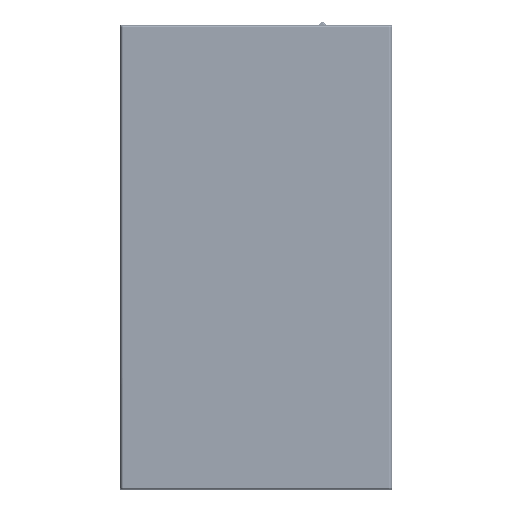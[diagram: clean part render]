
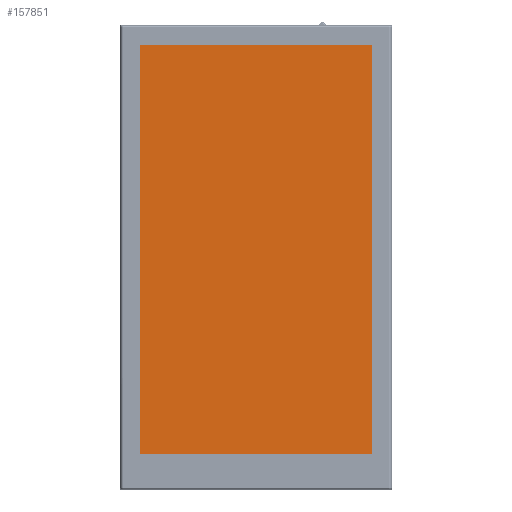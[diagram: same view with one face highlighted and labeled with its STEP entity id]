
A CAD part, top view. The second image highlights one B-rep face of the part: STEP entity #157851.
In plain terms, the highlighted planar face has unit normal (0, 0, 1).
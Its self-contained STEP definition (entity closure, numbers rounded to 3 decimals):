
#14257=LINE('',#258445,#30364);
#14258=LINE('',#258447,#30365);
#14259=LINE('',#258449,#30366);
#14260=LINE('',#258450,#30367);
#30364=VECTOR('',#204008,270.);
#30365=VECTOR('',#204009,478.3);
#30366=VECTOR('',#204010,270.);
#30367=VECTOR('',#204011,478.3);
#43848=FACE_OUTER_BOUND('',#53069,.T.);
#53069=EDGE_LOOP('',(#127799,#127800,#127801,#127802));
#70076=VERTEX_POINT('',#258443);
#70077=VERTEX_POINT('',#258444);
#70078=VERTEX_POINT('',#258446);
#70079=VERTEX_POINT('',#258448);
#89847=EDGE_CURVE('',#70076,#70077,#14257,.T.);
#89848=EDGE_CURVE('',#70078,#70076,#14258,.T.);
#89849=EDGE_CURVE('',#70079,#70078,#14259,.T.);
#89850=EDGE_CURVE('',#70077,#70079,#14260,.T.);
#127799=ORIENTED_EDGE('',*,*,#89847,.F.);
#127800=ORIENTED_EDGE('',*,*,#89848,.F.);
#127801=ORIENTED_EDGE('',*,*,#89849,.F.);
#127802=ORIENTED_EDGE('',*,*,#89850,.F.);
#142135=PLANE('',#169236);
#157851=ADVANCED_FACE('',(#43848),#142135,.T.);
#169236=AXIS2_PLACEMENT_3D('',#258442,#204006,#204007);
#204006=DIRECTION('center_axis',(0.,0.,
1.));
#204007=DIRECTION('ref_axis',(0.,-1.,0.));
#204008=DIRECTION('',(1.,0.,0.));
#204009=DIRECTION('',(0.,1.,0.));
#204010=DIRECTION('',(-1.,0.,0.));
#204011=DIRECTION('',(0.,-1.,0.));
#258442=CARTESIAN_POINT('Origin',(0.,9.5,
12.3));
#258443=CARTESIAN_POINT('',(-135.,248.65,12.3));
#258444=CARTESIAN_POINT('',(135.,248.65,12.3));
#258445=CARTESIAN_POINT('',(67.5,248.65,12.3));
#258446=CARTESIAN_POINT('',(-135.,-229.65,12.3));
#258447=CARTESIAN_POINT('',(-135.,129.075,12.3));
#258448=CARTESIAN_POINT('',(135.,-229.65,12.3));
#258449=CARTESIAN_POINT('',(-67.5,-229.65,12.3));
#258450=CARTESIAN_POINT('',(135.,-110.075,12.3));
